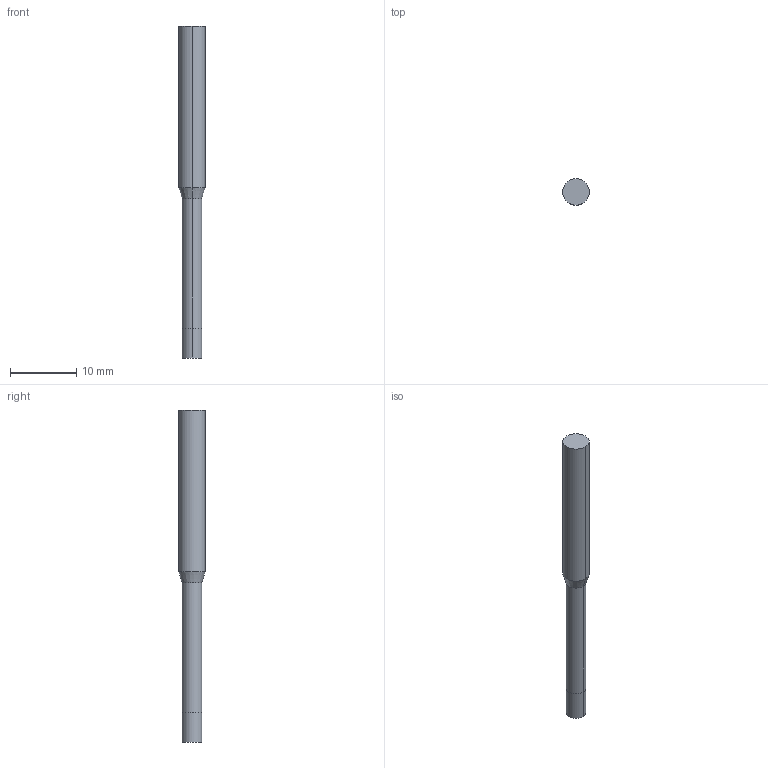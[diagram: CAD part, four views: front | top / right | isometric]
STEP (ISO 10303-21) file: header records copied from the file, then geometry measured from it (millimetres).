
FILE_DESCRIPTION((' '),'2;1');
FILE_NAME( '3MVSM0300N8AH.stp', '2026-01-21T19:28:02', (' '), ('--- Datakit www.datakit.com---'), ' Datakit CrossCadWare V2025.4 Sep 19 2025', 'Mastercam 2027', ' ');
FILE_SCHEMA(('AUTOMOTIVE_DESIGN { 1 0 10303 214 1 1 1 1 }'));
Length unit declared in the file: inch
Products named in the file (1): 3MVSM0300N8AH
Bounding box: 4 x 4 x 50 mm (x, y, z)
Volume: 491.7 mm3; surface area: 570.8 mm2
Topology: 1 solids, 1 shells, 10 faces, 18 edges, 10 vertices
Faces by surface type: cylinder 6, plane 2, cone 2
Entity records: 323 total; most frequent: DIRECTION 58, CARTESIAN_POINT 43, ORIENTED_EDGE 36, AXIS2_PLACEMENT_3D 25, EDGE_CURVE 18, VERTEX_POINT 10, CIRCLE 10, EDGE_LOOP 10
